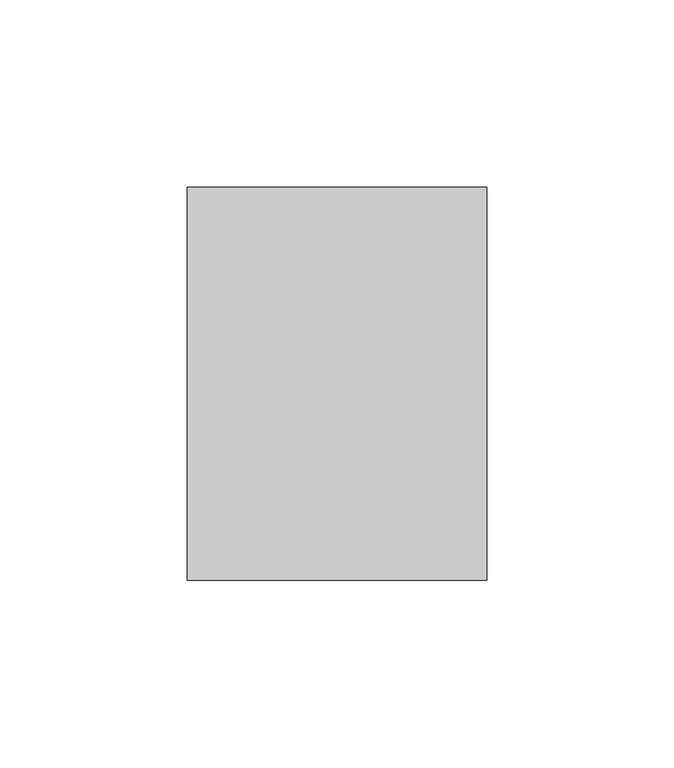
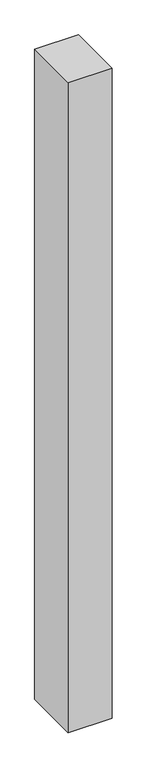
"""IFC4 building model written with IfcOpenShell, lengths in millimetres: proxy geometry, Modèles génériques 6 : Modèles génériques 6."""

import ifcopenshell
import ifcopenshell.guid

model = None  # the IFC model being written
_history = None  # IfcOwnerHistory: only IFC2X3 demands one
_inside = {}  # id of a spatial element -> (the spatial element, [elements in it])
_under = {}  # id of a project, library or spatial element -> (it, [spatial elements below it])
_declared = {}  # id of a project -> (the project, [libraries it declares])
_typed = {}  # id of a type object -> (the type object, [elements of that type])
_made_of = {}  # id of a material, layer set ... -> (it, [elements and type objects made of it])


def new_model(schema):
    """Start an empty IFC model of exactly this schema.

    Asked for "IFC4X3", IfcOpenShell would pick the latest addendum, in which some entities
    have other attributes; the version numbers below select the first issue.
    IFC2X3 requires an IfcOwnerHistory on every rooted entity: one is made here for all.
    """
    global model, _history
    if schema == "IFC4X3":
        model = ifcopenshell.file(schema_version=(4, 3, 0, 0))
    else:
        model = ifcopenshell.file(schema=schema)
    _inside.clear()
    _under.clear()
    _declared.clear()
    _typed.clear()
    _made_of.clear()
    _history = None
    if model.schema == "IFC2X3":
        org = make("IfcOrganization", Name="unknown")
        user = make(
            "IfcPersonAndOrganization",
            ThePerson=make("IfcPerson", FamilyName="unknown"),
            TheOrganization=org,
        )
        app = make(
            "IfcApplication",
            ApplicationDeveloper=org,
            Version="unknown",
            ApplicationFullName="unknown",
            ApplicationIdentifier="unknown",
        )
        _history = make(
            "IfcOwnerHistory",
            OwningUser=user,
            OwningApplication=app,
            ChangeAction="ADDED",
            CreationDate=0,
        )
    return model


def make(cls, **values):
    """One entity of the class cls with the attributes given. An attribute that is None is left unset."""
    return model.create_entity(
        cls, **{name: value for name, value in values.items() if value is not None}
    )


def rooted(cls, **values):
    """An entity with a GlobalId (a new one), such as an element, a storey or a relation."""
    return make(cls, GlobalId=ifcopenshell.guid.new(), OwnerHistory=_history, **values)


def si_unit(unit_type, name, prefix=None):
    """IfcSIUnit, for example si_unit("LENGTHUNIT", "METRE", prefix="MILLI")."""
    return make("IfcSIUnit", UnitType=unit_type, Prefix=prefix, Name=name)


def assignment(units):
    """IfcUnitAssignment: the units of a project."""
    return None if units is None else make("IfcUnitAssignment", Units=units)


def point(xyz):
    """IfcCartesianPoint."""
    return None if xyz is None else make("IfcCartesianPoint", Coordinates=xyz)


def direction(xyz):
    """IfcDirection."""
    return None if xyz is None else make("IfcDirection", DirectionRatios=xyz)


def frame(location, z_axis=None, x_axis=None):
    """IfcAxis2Placement3D, a coordinate frame: its origin and axes. An axis left out is left unset."""
    return make(
        "IfcAxis2Placement3D",
        Location=point(location),
        Axis=direction(z_axis),
        RefDirection=direction(x_axis),
    )


def origin():
    """The frame at (0, 0, 0) with its axes left unset."""
    return frame((0.0, 0.0, 0.0))


def place(relative_to, where):
    """IfcLocalPlacement: puts the frame where relative to a parent placement (None: the world)."""
    return make(
        "IfcLocalPlacement", PlacementRelTo=relative_to, RelativePlacement=where
    )


def context(
    kind, dimensions, precision=None, world=None, true_north=None, identifier=None
):
    """IfcGeometricRepresentationContext, for example the 3D "Model" context."""
    return make(
        "IfcGeometricRepresentationContext",
        ContextIdentifier=identifier,
        ContextType=kind,
        CoordinateSpaceDimension=dimensions,
        Precision=precision,
        WorldCoordinateSystem=world,
        TrueNorth=true_north,
    )


def project(units=None, contexts=None):
    """IfcProject with its units and contexts."""
    return rooted(
        "IfcProject",
        Name="project",
        RepresentationContexts=contexts,
        UnitsInContext=assignment(units),
    )


def spatial(cls, under=None, at=None, **own):
    """A site, building, storey or space (cls), placed at a placement, below another one or the project."""
    s = rooted(cls, ObjectPlacement=at, **own)
    if under is not None:
        _under.setdefault(under.id(), (under, []))[1].append(s)
    return s


def polyline(points):
    """IfcPolyline through the points."""
    return make("IfcPolyline", Points=[point(p) for p in points])


def outline(outer, holes=None, kind="AREA"):
    """IfcArbitraryClosedProfileDef: a profile drawn as a closed curve; with holes, ...WithVoids."""
    if holes is None:
        return make("IfcArbitraryClosedProfileDef", ProfileType=kind, OuterCurve=outer)
    return make(
        "IfcArbitraryProfileDefWithVoids",
        ProfileType=kind,
        OuterCurve=outer,
        InnerCurves=holes,
    )


def extrude(swept, where, along, depth):
    """IfcExtrudedAreaSolid: the profile swept, set in the frame where, extruded along a direction by depth."""
    return make(
        "IfcExtrudedAreaSolid",
        SweptArea=swept,
        Position=where,
        ExtrudedDirection=direction(along),
        Depth=depth,
    )


def shape(context_of_items, identifier, shape_type, items):
    """IfcShapeRepresentation: the items that make up one representation, for example the "Body"."""
    return make(
        "IfcShapeRepresentation",
        ContextOfItems=context_of_items,
        RepresentationIdentifier=identifier,
        RepresentationType=shape_type,
        Items=items,
    )


def source(mapping_origin, context_of_items, identifier, shape_type, items):
    """IfcRepresentationMap: a shape defined once, which mapped items show again and again."""
    return make(
        "IfcRepresentationMap",
        MappingOrigin=mapping_origin,
        MappedRepresentation=shape(context_of_items, identifier, shape_type, items),
    )


def transform(
    local_origin,
    x_axis=None,
    y_axis=None,
    z_axis=None,
    scale=None,
    scale2=None,
    scale3=None,
    uniform=True,
):
    """IfcCartesianTransformationOperator3D, or its non-uniform kind. x_axis, y_axis, z_axis: its Axis1, 2, 3."""
    if uniform:
        return make(
            "IfcCartesianTransformationOperator3D",
            Axis1=direction(x_axis),
            Axis2=direction(y_axis),
            LocalOrigin=point(local_origin),
            Scale=scale,
            Axis3=direction(z_axis),
        )
    return make(
        "IfcCartesianTransformationOperator3DnonUniform",
        Axis1=direction(x_axis),
        Axis2=direction(y_axis),
        LocalOrigin=point(local_origin),
        Scale=scale,
        Axis3=direction(z_axis),
        Scale2=scale2,
        Scale3=scale3,
    )


def mapped(mapping_source, mapping_target):
    """IfcMappedItem: shows the shape of a source again, moved by a transform."""
    return make(
        "IfcMappedItem", MappingSource=mapping_source, MappingTarget=mapping_target
    )


def made_of(thing, what):
    """Note that an element or type object is made of a material, layer set ...; save() writes the relation."""
    if what is not None:
        _made_of.setdefault(what.id(), (what, []))[1].append(thing)
    return thing


def element(
    cls,
    number,
    at=None,
    inside=None,
    cuts=None,
    type_object=None,
    material=None,
    context=None,
    identifier="Body",
    shape_type=None,
    held_by="IfcProductDefinitionShape",
    body=None,
    shapes=None,
    **own,
):
    """One element of the class cls, such as IfcWall. Its Tag is "e" and its number.

    at: its placement. inside: the storey or other place that contains it. cuts: it is an
    opening in that element (IfcRelVoidsElement). A single representation is given by context,
    identifier, shape_type and body (its items); several are given by shapes. held_by: the class
    of the entity that holds the representations. save() writes the other relations.
    """
    e = rooted(cls, Tag="e%d" % number, ObjectPlacement=at, **own)
    if body is not None:
        shapes = [shape(context, identifier, shape_type, body)]
    if shapes is not None:
        e.Representation = make(held_by, Representations=shapes)
    if inside is not None:
        _inside.setdefault(inside.id(), (inside, []))[1].append(e)
    if cuts is not None:
        rooted(
            "IfcRelVoidsElement", RelatingBuildingElement=cuts, RelatedOpeningElement=e
        )
    if type_object is not None:
        _typed.setdefault(type_object.id(), (type_object, []))[1].append(e)
    return made_of(e, material)


def aggregate(whole, parts):
    """IfcRelAggregates: a whole, such as a stair, and the parts it consists of."""
    return rooted("IfcRelAggregates", RelatingObject=whole, RelatedObjects=parts)


def save(model, path):
    """Write the relations noted so far, then the file.

    IfcRelAggregates (storeys below a building ...), IfcRelContainedInSpatialStructure (elements
    in a storey), IfcRelDefinesByType, IfcRelAssociatesMaterial and IfcRelDeclares: one each for
    every whole, place, type object, material and project.
    """
    for whole, parts in _under.values():
        aggregate(whole, parts)
    for where, things in _inside.values():
        rooted(
            "IfcRelContainedInSpatialStructure",
            RelatedElements=things,
            RelatingStructure=where,
        )
    for kind, things in _typed.values():
        rooted("IfcRelDefinesByType", RelatedObjects=things, RelatingType=kind)
    for what, things in _made_of.values():
        rooted("IfcRelAssociatesMaterial", RelatedObjects=things, RelatingMaterial=what)
    for by, libraries in _declared.values():
        rooted("IfcRelDeclares", RelatingContext=by, RelatedDefinitions=libraries)
    model.write(path)


def generic_models_aca1baa4(model_context):
    return source(origin(), model_context, "Body", "SweptSolid", [
        extrude(outline(polyline([(-1659.7959861, -20806.2530701), (-1579.7959861, -20806.2530701), (-1579.7959861, -20911.2530701), (-1659.7959861, -20911.2530701), (-1659.7959861, -20806.2530701)])), frame((0.0, 0.0, 1948.0838649), z_axis=(0.0, 0.0, 1.0), x_axis=(1.0, 0.0, 0.0)), (0.0, 0.0, 1.0), 1250.0),
    ])


if __name__ == "__main__":
    model = new_model("IFC4")
    model_context = context("Model", 3, world=origin())
    ifc_project = project(units=[si_unit("LENGTHUNIT", "METRE", prefix="MILLI")], contexts=[model_context])
    site = spatial("IfcSite", under=ifc_project)
    building = spatial("IfcBuilding", under=site)
    placement = place(None, origin())
    generic_models_shape = generic_models_aca1baa4(model_context)
    element("IfcBuildingElementProxy", 1, Name="Modèles génériques 6 : Modèles génériques 6", ObjectType="Modèles génériques 6 : Modèles génériques 6", at=placement, inside=building, context=model_context, shape_type="MappedRepresentation", body=[
        mapped(generic_models_shape, transform((0.0, 0.0, 0.0), x_axis=(1.0, 0.0, 0.0), y_axis=(0.0, 1.0, 0.0), z_axis=(0.0, 0.0, 1.0))),
    ])
    save(model, "model.ifc")
